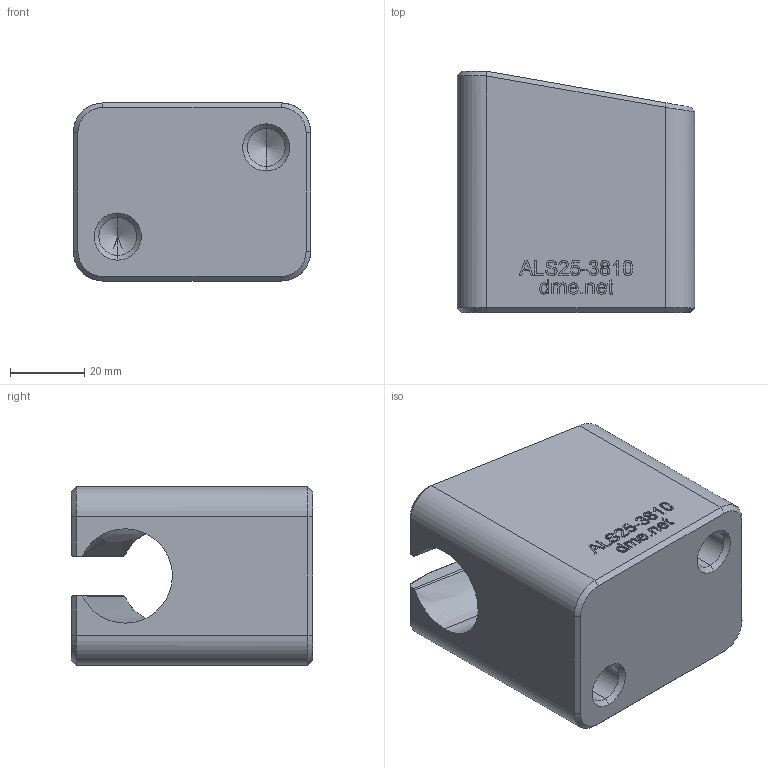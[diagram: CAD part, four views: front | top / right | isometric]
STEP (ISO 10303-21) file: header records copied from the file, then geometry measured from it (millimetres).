
FILE_DESCRIPTION (( 'STEP AP203' ), '1' );
FILE_NAME ('ALS25-3810.STEP', '2021-01-11T16:05:51', ( '' ), ( '' ), 'SwSTEP 2.0', 'SolidWorks 2020', '' );
FILE_SCHEMA (( 'CONFIG_CONTROL_DESIGN' ));
Length unit declared in the file: millimetre
Products named in the file (1): ALS25-3810
Bounding box: 64 x 65 x 48 mm (x, y, z)
Volume: 144642 mm3; surface area: 22914.1 mm2
Topology: 1 solids, 1 shells, 287 faces, 757 edges, 494 vertices
Faces by surface type: plane 133, bspline 126, cone 14, cylinder 14
Entity records: 15670 total; most frequent: CARTESIAN_POINT 9415, ORIENTED_EDGE 1506, DIRECTION 833, EDGE_CURVE 753, VERTEX_POINT 494, VECTOR 461, LINE 461, EDGE_LOOP 313
